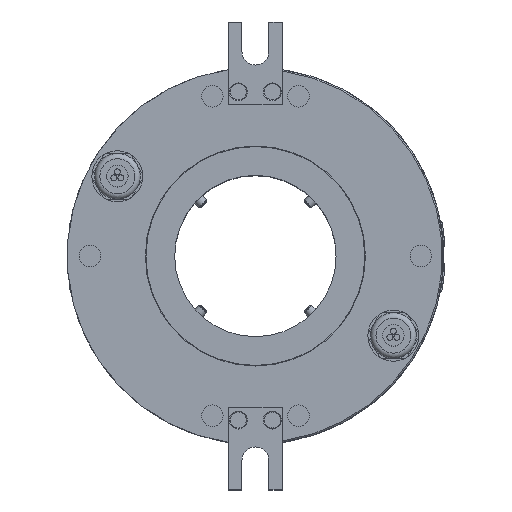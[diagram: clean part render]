
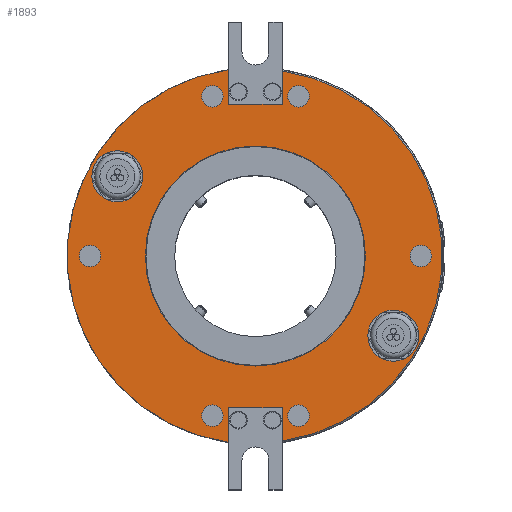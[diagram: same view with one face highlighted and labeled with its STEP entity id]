
A CAD part, top view. The second image highlights one B-rep face of the part: STEP entity #1893.
In plain terms, the highlighted planar face has unit normal (0, 0, 1).
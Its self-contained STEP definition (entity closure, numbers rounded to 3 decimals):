
#386=FACE_BOUND('',#4037,.T.);
#387=FACE_BOUND('',#4038,.T.);
#388=FACE_BOUND('',#4039,.T.);
#389=FACE_BOUND('',#4040,.T.);
#390=FACE_BOUND('',#4041,.T.);
#391=FACE_BOUND('',#4042,.T.);
#392=FACE_BOUND('',#4043,.T.);
#393=FACE_BOUND('',#4044,.T.);
#394=FACE_BOUND('',#4045,.T.);
#395=FACE_BOUND('',#4046,.T.);
#603=CIRCLE('',#15370,4.);
#605=CIRCLE('',#15373,4.);
#767=CIRCLE('',#15686,4.);
#768=CIRCLE('',#15688,4.);
#772=CIRCLE('',#15695,40.9);
#773=CIRCLE('',#15697,9.5);
#774=CIRCLE('',#15699,9.5);
#778=CIRCLE('',#15716,4.);
#780=CIRCLE('',#15719,4.);
#781=CIRCLE('',#15721,69.5);
#782=CIRCLE('',#15722,70.);
#1893=ADVANCED_FACE('',(#386,#387,#388,#389,#390,#391,#392,#393,#394,#395),
#2471,.T.);
#2471=PLANE('',#15723);
#4037=EDGE_LOOP('',(#8296,#8297,#8298,#8299,#8300,#8301,#8302,#8303));
#4038=EDGE_LOOP('',(#8304));
#4039=EDGE_LOOP('',(#8305));
#4040=EDGE_LOOP('',(#8306));
#4041=EDGE_LOOP('',(#8307));
#4042=EDGE_LOOP('',(#8308));
#4043=EDGE_LOOP('',(#8309));
#4044=EDGE_LOOP('',(#8310));
#4045=EDGE_LOOP('',(#8311));
#4046=EDGE_LOOP('',(#8312));
#4712=LINE('',#28690,#5352);
#4716=LINE('',#28698,#5356);
#4718=LINE('',#28702,#5358);
#4720=LINE('',#28706,#5360);
#4735=LINE('',#28748,#5375);
#4736=LINE('',#28750,#5376);
#5352=VECTOR('',#17826,1.);
#5356=VECTOR('',#17832,1.);
#5358=VECTOR('',#17836,1.);
#5360=VECTOR('',#17840,1.);
#5375=VECTOR('',#17869,1.);
#5376=VECTOR('',#17872,1.);
#8296=ORIENTED_EDGE('',*,*,#12936,.F.);
#8297=ORIENTED_EDGE('',*,*,#12944,.T.);
#8298=ORIENTED_EDGE('',*,*,#12918,.F.);
#8299=ORIENTED_EDGE('',*,*,#12916,.F.);
#8300=ORIENTED_EDGE('',*,*,#12914,.F.);
#8301=ORIENTED_EDGE('',*,*,#12945,.T.);
#8302=ORIENTED_EDGE('',*,*,#12937,.F.);
#8303=ORIENTED_EDGE('',*,*,#12910,.F.);
#8304=ORIENTED_EDGE('',*,*,#12909,.F.);
#8305=ORIENTED_EDGE('',*,*,#12908,.F.);
#8306=ORIENTED_EDGE('',*,*,#12542,.T.);
#8307=ORIENTED_EDGE('',*,*,#12544,.T.);
#8308=ORIENTED_EDGE('',*,*,#12907,.F.);
#8309=ORIENTED_EDGE('',*,*,#12903,.F.);
#8310=ORIENTED_EDGE('',*,*,#12943,.F.);
#8311=ORIENTED_EDGE('',*,*,#12941,.F.);
#8312=ORIENTED_EDGE('',*,*,#12902,.T.);
#10667=VERTEX_POINT('',#27415);
#10669=VERTEX_POINT('',#27420);
#10940=VERTEX_POINT('',#28668);
#10941=VERTEX_POINT('',#28671);
#10945=VERTEX_POINT('',#28682);
#10946=VERTEX_POINT('',#28685);
#10947=VERTEX_POINT('',#28688);
#10948=VERTEX_POINT('',#28691);
#10949=VERTEX_POINT('',#28692);
#10950=VERTEX_POINT('',#28697);
#10951=VERTEX_POINT('',#28699);
#10952=VERTEX_POINT('',#28703);
#10953=VERTEX_POINT('',#28707);
#10964=VERTEX_POINT('',#28747);
#10965=VERTEX_POINT('',#28751);
#10967=VERTEX_POINT('',#28759);
#10969=VERTEX_POINT('',#28764);
#12542=EDGE_CURVE('',#10667,#10667,#603,.T.);
#12544=EDGE_CURVE('',#10669,#10669,#605,.T.);
#12902=EDGE_CURVE('',#10940,#10940,#767,.T.);
#12903=EDGE_CURVE('',#10941,#10941,#768,.T.);
#12907=EDGE_CURVE('',#10945,#10945,#772,.T.);
#12908=EDGE_CURVE('',#10946,#10946,#773,.T.);
#12909=EDGE_CURVE('',#10947,#10947,#774,.T.);
#12910=EDGE_CURVE('',#10948,#10949,#4712,.T.);
#12914=EDGE_CURVE('',#10950,#10951,#4716,.T.);
#12916=EDGE_CURVE('',#10951,#10952,#4718,.T.);
#12918=EDGE_CURVE('',#10952,#10953,#4720,.T.);
#12936=EDGE_CURVE('',#10964,#10948,#4735,.T.);
#12937=EDGE_CURVE('',#10949,#10965,#4736,.T.);
#12941=EDGE_CURVE('',#10967,#10967,#778,.T.);
#12943=EDGE_CURVE('',#10969,#10969,#780,.T.);
#12944=EDGE_CURVE('',#10964,#10953,#781,.T.);
#12945=EDGE_CURVE('',#10950,#10965,#782,.T.);
#15370=AXIS2_PLACEMENT_3D('',#27414,#16984,#16985);
#15373=AXIS2_PLACEMENT_3D('',#27419,#16990,#16991);
#15686=AXIS2_PLACEMENT_3D('',#28667,#17796,#17797);
#15688=AXIS2_PLACEMENT_3D('',#28670,#17800,#17801);
#15695=AXIS2_PLACEMENT_3D('',#28681,#17814,#17815);
#15697=AXIS2_PLACEMENT_3D('',#28684,#17818,#17819);
#15699=AXIS2_PLACEMENT_3D('',#28687,#17822,#17823);
#15716=AXIS2_PLACEMENT_3D('',#28758,#17882,#17883);
#15719=AXIS2_PLACEMENT_3D('',#28763,#17888,#17889);
#15721=AXIS2_PLACEMENT_3D('',#28766,#17892,#17893);
#15722=AXIS2_PLACEMENT_3D('',#28767,#17894,#17895);
#15723=AXIS2_PLACEMENT_3D('',#28768,#17896,#17897);
#16984=DIRECTION('',(0.,0.,-1.));
#16985=DIRECTION('',(-0.174,0.985,0.));
#16990=DIRECTION('',(0.,0.,-1.));
#16991=DIRECTION('',(0.174,0.985,0.));
#17796=DIRECTION('',(0.,0.,-1.));
#17797=DIRECTION('',(1.,0.,0.));
#17800=DIRECTION('',(0.,0.,1.));
#17801=DIRECTION('',(1.,0.,0.));
#17814=DIRECTION('',(0.,0.,1.));
#17815=DIRECTION('',(1.,0.,0.));
#17818=DIRECTION('',(0.,0.,1.));
#17819=DIRECTION('',(0.,1.,0.));
#17822=DIRECTION('',(0.,0.,1.));
#17823=DIRECTION('',(0.,-1.,0.));
#17826=DIRECTION('',(-1.,0.,0.));
#17832=DIRECTION('',(0.,-1.,0.));
#17836=DIRECTION('',(1.,0.,0.));
#17840=DIRECTION('',(0.,1.,0.));
#17869=DIRECTION('',(0.,1.,0.));
#17872=DIRECTION('',(0.,-1.,0.));
#17882=DIRECTION('',(0.,0.,1.));
#17883=DIRECTION('',(1.,0.,0.));
#17888=DIRECTION('',(0.,0.,1.));
#17889=DIRECTION('',(1.,0.,0.));
#17892=DIRECTION('',(0.,0.,1.));
#17893=DIRECTION('',(1.,0.,0.));
#17894=DIRECTION('',(0.,0.,1.));
#17895=DIRECTION('',(1.,0.,0.));
#17896=DIRECTION('',(0.,0.,1.));
#17897=DIRECTION('',(1.,0.,0.));
#27414=CARTESIAN_POINT('',(61.5,0.,96.));
#27415=CARTESIAN_POINT('',(60.805,3.939,96.));
#27419=CARTESIAN_POINT('',(-61.5,0.,96.));
#27420=CARTESIAN_POINT('',(-60.805,3.939,96.));
#28667=CARTESIAN_POINT('',(-16.,59.382,96.));
#28668=CARTESIAN_POINT('',(-12.,59.382,96.));
#28670=CARTESIAN_POINT('',(16.,59.382,96.));
#28671=CARTESIAN_POINT('',(20.,59.382,96.));
#28681=CARTESIAN_POINT('',(0.,0.,96.));
#28682=CARTESIAN_POINT('',(40.9,0.,96.));
#28684=CARTESIAN_POINT('',(51.312,-29.625,96.));
#28685=CARTESIAN_POINT('',(51.312,-20.125,96.));
#28687=CARTESIAN_POINT('',(-51.312,29.625,96.));
#28688=CARTESIAN_POINT('',(-51.312,20.125,96.));
#28690=CARTESIAN_POINT('',(10.,-56.5,96.));
#28691=CARTESIAN_POINT('',(10.,-56.5,96.));
#28692=CARTESIAN_POINT('',(-10.,-56.5,96.));
#28697=CARTESIAN_POINT('',(-10.,69.282,96.));
#28698=CARTESIAN_POINT('',(-10.,87.,96.));
#28699=CARTESIAN_POINT('',(-10.,56.5,96.));
#28702=CARTESIAN_POINT('',(-10.,56.5,96.));
#28703=CARTESIAN_POINT('',(10.,56.5,96.));
#28706=CARTESIAN_POINT('',(10.,56.5,96.));
#28707=CARTESIAN_POINT('',(10.,68.777,96.));
#28747=CARTESIAN_POINT('',(10.,-68.777,96.));
#28748=CARTESIAN_POINT('',(10.,-87.,96.));
#28750=CARTESIAN_POINT('',(-10.,-56.5,96.));
#28751=CARTESIAN_POINT('',(-10.,-69.282,96.));
#28758=CARTESIAN_POINT('',(-16.,-59.382,96.));
#28759=CARTESIAN_POINT('',(-12.,-59.382,96.));
#28763=CARTESIAN_POINT('',(16.,-59.382,96.));
#28764=CARTESIAN_POINT('',(20.,-59.382,96.));
#28766=CARTESIAN_POINT('',(0.,0.,96.));
#28767=CARTESIAN_POINT('',(0.,0.,96.));
#28768=CARTESIAN_POINT('',(0.,0.,96.));
